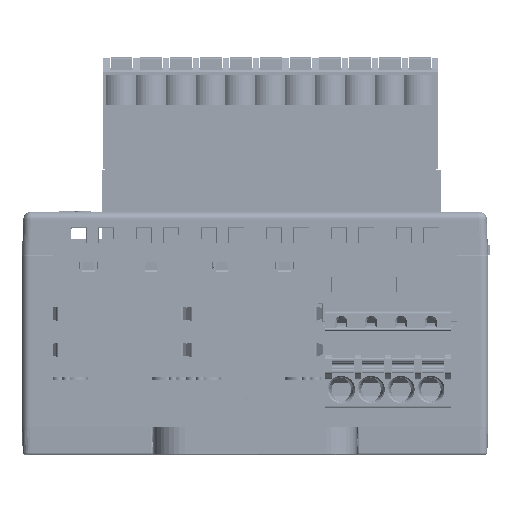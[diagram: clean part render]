
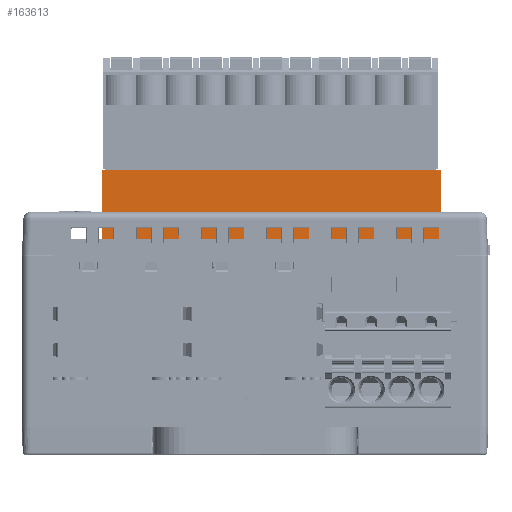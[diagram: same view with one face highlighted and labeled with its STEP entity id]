
A CAD part, front view. The second image highlights one B-rep face of the part: STEP entity #163613.
In plain terms, the highlighted planar face has unit normal (0, -1, 0).
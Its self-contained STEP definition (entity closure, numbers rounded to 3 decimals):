
#42042=DIRECTION('',(1.,0.,0.));
#42043=VECTOR('',#42042,43.3);
#42044=CARTESIAN_POINT('',(-19.55,-19.15,27.5));
#42045=LINE('',#42044,#42043);
#44478=DIRECTION('',(0.,0.,-1.));
#44479=VECTOR('',#44478,8.8);
#44480=CARTESIAN_POINT('',(23.75,-19.15,36.3));
#44481=LINE('',#44480,#44479);
#44486=DIRECTION('',(0.,0.,-1.));
#44487=VECTOR('',#44486,8.8);
#44488=CARTESIAN_POINT('',(-19.55,-19.15,36.3));
#44489=LINE('',#44488,#44487);
#44490=DIRECTION('',(-1.,0.,0.));
#44491=VECTOR('',#44490,43.3);
#44492=CARTESIAN_POINT('',(23.75,-19.15,36.3));
#44493=LINE('',#44492,#44491);
#60844=CARTESIAN_POINT('',(-19.55,-19.15,36.3));
#60846=VERTEX_POINT('',#60844);
#60850=CARTESIAN_POINT('',(23.75,-19.15,36.3));
#60851=VERTEX_POINT('',#60850);
#76162=CARTESIAN_POINT('',(-19.55,-19.15,27.5));
#76164=VERTEX_POINT('',#76162);
#76165=CARTESIAN_POINT('',(23.75,-19.15,27.5));
#76166=VERTEX_POINT('',#76165);
#163601=CARTESIAN_POINT('',(2.1,-19.15,31.7));
#163602=DIRECTION('',(0.,1.,0.));
#163603=DIRECTION('',(1.,0.,0.));
#163604=AXIS2_PLACEMENT_3D('',#163601,#163602,#163603);
#163605=PLANE('',#163604);
#163606=ORIENTED_EDGE('',*,*,#159758,.F.);
#163607=ORIENTED_EDGE('',*,*,#163547,.F.);
#163609=ORIENTED_EDGE('',*,*,#163608,.F.);
#163610=ORIENTED_EDGE('',*,*,#163586,.T.);
#163611=EDGE_LOOP('',(#163606,#163607,#163609,#163610));
#163612=FACE_OUTER_BOUND('',#163611,.F.);
#163613=ADVANCED_FACE('',(#163612),#163605,.F.);
#159758=EDGE_CURVE('',#76164,#76166,#42045,.T.);
#163547=EDGE_CURVE('',#60846,#76164,#44489,.T.);
#163586=EDGE_CURVE('',#60851,#76166,#44481,.T.);
#163608=EDGE_CURVE('',#60851,#60846,#44493,.T.);
